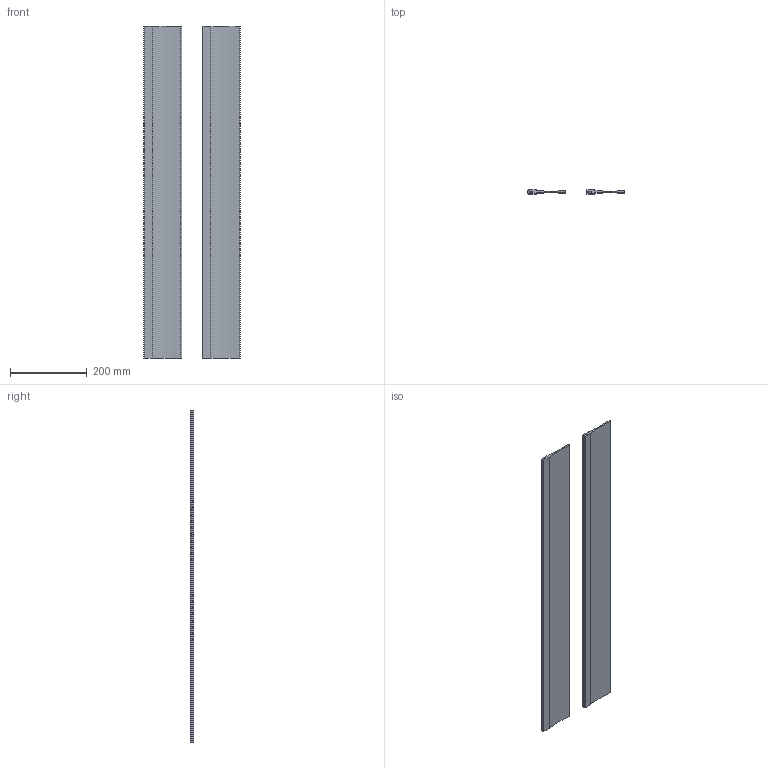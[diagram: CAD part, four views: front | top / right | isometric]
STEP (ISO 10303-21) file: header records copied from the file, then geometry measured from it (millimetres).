
FILE_DESCRIPTION(/* description */ ('BRUSH STRIP, FLEXIBLE PVC, 3" TRIM, CUT 34" LG. (TANIS INC.)'),/* implementation_level */ '2;1');
FILE_NAME(/* name */ 'Y:\Inventor\I005XXX\I005941\I005941.stp',/* time_stamp */ '2015-05-19T16:18:07-04:00',/* author */ ('dustinh'),/* organization */ (''),/* preprocessor_version */ 'ST-DEVELOPER v15.6',/* originating_system */ 'Autodesk Inventor 2015',/* authorisation */ '');
FILE_SCHEMA (('AUTOMOTIVE_DESIGN { 1 0 10303 214 3 1 1 }'));
Length unit declared in the file: inch
Products named in the file (2): FPVC123072(34); I005941
Assembly tree (2 placements, depth 2):
  I005941
    FPVC123072(34)  x2
Bounding box: 250.82 x 9.53 x 863.6 mm (x, y, z)
Volume: 817296.4 mm3; surface area: 413806.5 mm2
Topology: 2 solids, 2 shells, 36 faces, 96 edges, 64 vertices
Faces by surface type: plane 24, cylinder 12
Entity records: 627 total; most frequent: DIRECTION 104, CARTESIAN_POINT 102, ORIENTED_EDGE 96, EDGE_CURVE 48, LINE 36, VECTOR 36, AXIS2_PLACEMENT_3D 34, VERTEX_POINT 32
